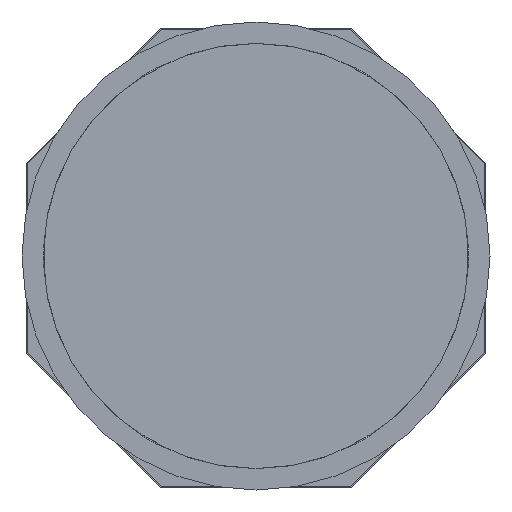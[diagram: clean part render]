
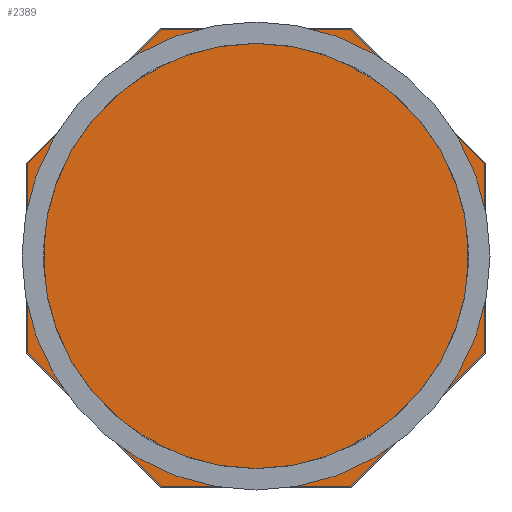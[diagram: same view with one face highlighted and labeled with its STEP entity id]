
A CAD part, front view. The second image highlights one B-rep face of the part: STEP entity #2389.
In plain terms, the highlighted planar face has unit normal (0, -1, 0).
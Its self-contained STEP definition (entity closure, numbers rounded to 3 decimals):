
#2011=DIRECTION('',(0.,0.,1.));
#2012=VECTOR('',#2011,353.738);
#2013=CARTESIAN_POINT('',(427.,52.,-180.869));
#2014=LINE('',#2013,#2012);
#2019=DIRECTION('',(0.707,0.,-0.707));
#2020=VECTOR('',#2019,353.738);
#2021=CARTESIAN_POINT('',(-427.,52.,-180.869));
#2022=LINE('',#2021,#2020);
#2027=DIRECTION('',(1.,0.,0.));
#2028=VECTOR('',#2027,353.738);
#2029=CARTESIAN_POINT('',(-176.869,52.,-431.));
#2030=LINE('',#2029,#2028);
#2035=DIRECTION('',(0.707,0.,0.707));
#2036=VECTOR('',#2035,353.738);
#2037=CARTESIAN_POINT('',(176.869,52.,-431.));
#2038=LINE('',#2037,#2036);
#2237=DIRECTION('',(-0.707,0.,0.707));
#2238=VECTOR('',#2237,353.738);
#2239=CARTESIAN_POINT('',(427.,52.,172.869));
#2240=LINE('',#2239,#2238);
#2245=DIRECTION('',(-1.,0.,0.));
#2246=VECTOR('',#2245,353.738);
#2247=CARTESIAN_POINT('',(176.869,52.,423.));
#2248=LINE('',#2247,#2246);
#2253=DIRECTION('',(-0.707,0.,-0.707));
#2254=VECTOR('',#2253,353.738);
#2255=CARTESIAN_POINT('',(-176.869,52.,423.));
#2256=LINE('',#2255,#2254);
#2261=DIRECTION('',(0.,0.,-1.));
#2262=VECTOR('',#2261,353.738);
#2263=CARTESIAN_POINT('',(-427.,52.,172.869));
#2264=LINE('',#2263,#2262);
#2317=CARTESIAN_POINT('',(-427.,52.,-180.869));
#2318=CARTESIAN_POINT('',(-176.869,52.,-431.));
#2319=VERTEX_POINT('',#2317);
#2320=VERTEX_POINT('',#2318);
#2321=CARTESIAN_POINT('',(176.869,52.,-431.));
#2322=VERTEX_POINT('',#2321);
#2323=CARTESIAN_POINT('',(427.,52.,-180.869));
#2324=VERTEX_POINT('',#2323);
#2325=CARTESIAN_POINT('',(427.,52.,172.869));
#2326=VERTEX_POINT('',#2325);
#2327=CARTESIAN_POINT('',(176.869,52.,423.));
#2328=VERTEX_POINT('',#2327);
#2329=CARTESIAN_POINT('',(-176.869,52.,423.));
#2330=VERTEX_POINT('',#2329);
#2331=CARTESIAN_POINT('',(-427.,52.,172.869));
#2332=VERTEX_POINT('',#2331);
#2367=CARTESIAN_POINT('',(0.,52.,0.));
#2368=DIRECTION('',(0.,1.,0.));
#2369=DIRECTION('',(1.,0.,0.));
#2370=AXIS2_PLACEMENT_3D('',#2367,#2368,#2369);
#2371=PLANE('',#2370);
#2373=ORIENTED_EDGE('',*,*,#2372,.F.);
#2375=ORIENTED_EDGE('',*,*,#2374,.F.);
#2377=ORIENTED_EDGE('',*,*,#2376,.F.);
#2379=ORIENTED_EDGE('',*,*,#2378,.F.);
#2381=ORIENTED_EDGE('',*,*,#2380,.F.);
#2382=ORIENTED_EDGE('',*,*,#2356,.F.);
#2384=ORIENTED_EDGE('',*,*,#2383,.F.);
#2386=ORIENTED_EDGE('',*,*,#2385,.F.);
#2387=EDGE_LOOP('',(#2373,#2375,#2377,#2379,#2381,#2382,#2384,#2386));
#2388=FACE_OUTER_BOUND('',#2387,.F.);
#2356=EDGE_CURVE('',#2324,#2326,#2014,.T.);
#2372=EDGE_CURVE('',#2319,#2320,#2022,.T.);
#2374=EDGE_CURVE('',#2332,#2319,#2264,.T.);
#2376=EDGE_CURVE('',#2330,#2332,#2256,.T.);
#2378=EDGE_CURVE('',#2328,#2330,#2248,.T.);
#2380=EDGE_CURVE('',#2326,#2328,#2240,.T.);
#2383=EDGE_CURVE('',#2322,#2324,#2038,.T.);
#2385=EDGE_CURVE('',#2320,#2322,#2030,.T.);
#2389=ADVANCED_FACE('',(#2388),#2371,.F.);
